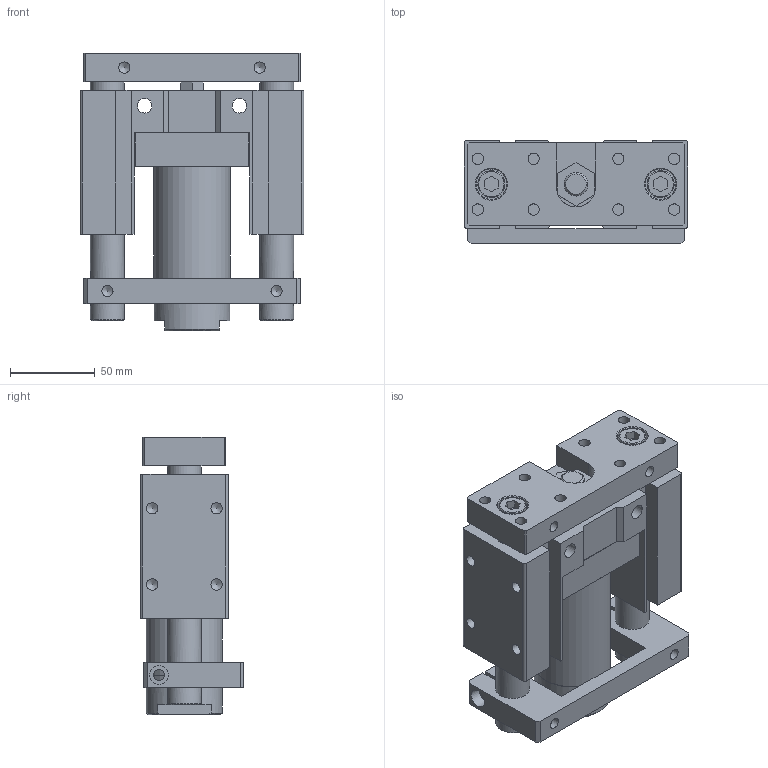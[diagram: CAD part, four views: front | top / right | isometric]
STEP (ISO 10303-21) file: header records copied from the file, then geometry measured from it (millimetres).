
FILE_DESCRIPTION((''),'2;1');
FILE_NAME('I:\3D電子目錄\氣缸\TMB(U)\TMB(U)\TMB(U)40\TMB(U)40x25.stp','2007-10-05T11:40:00',('Administrator'),(''),'Autodesk Inventor 11','Autodesk Inventor 11','');
FILE_SCHEMA(('AUTOMOTIVE_DESIGN { 1 0 10303 214 1 1 1 1 }'));
Length unit declared in the file: millimetre
Products named in the file (1): TMB(U)40
Bounding box: 132 x 61 x 164 mm (x, y, z)
Volume: 708620.9 mm3; surface area: 118083.3 mm2
Topology: 1 solids, 1 shells, 201 faces, 524 edges, 344 vertices
Faces by surface type: plane 118, bspline 41, cylinder 23, cone 17, torus 2
Full cylindrical faces by diameter (mm): 6.5 x2, 6.647 x6, 11 x1, 14 x1, 16 x2, 18 x2, 20 x2, 45 x2
Entity records: 6100 total; most frequent: CARTESIAN_POINT 1571, DIRECTION 870, ORIENTED_EDGE 858, EDGE_CURVE 429, EDGE_LOOP 324, VERTEX_POINT 319, VECTOR 302, LINE 302
